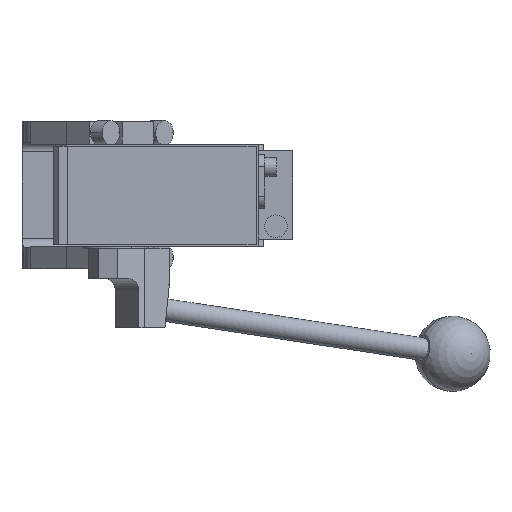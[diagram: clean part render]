
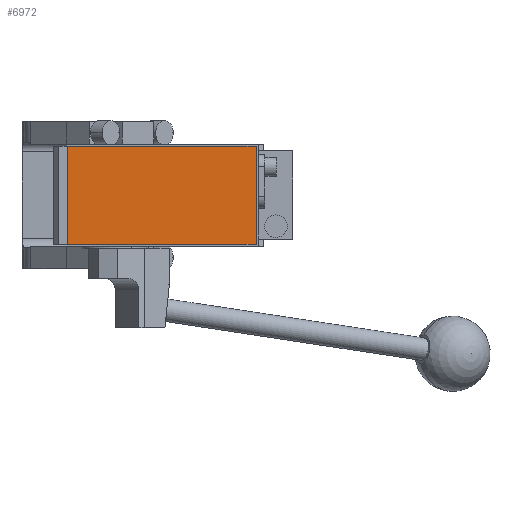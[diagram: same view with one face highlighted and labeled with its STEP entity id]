
A CAD part, front view. The second image highlights one B-rep face of the part: STEP entity #6972.
In plain terms, the highlighted planar face has unit normal (0, -1, 0).
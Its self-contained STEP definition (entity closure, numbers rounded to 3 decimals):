
#382 = EDGE_CURVE ( 'NONE', #5186, #12626, #14631, .T. ) ;
#619 = DIRECTION ( 'NONE',  ( 0., 0., 1. ) ) ;
#940 = DIRECTION ( 'NONE',  ( 0., 0., -1. ) ) ;
#1685 = CARTESIAN_POINT ( 'NONE',  ( -19., -286.5, -26. ) ) ;
#2082 = CARTESIAN_POINT ( 'NONE',  ( 0., -286.5, 0. ) ) ;
#2326 = ORIENTED_EDGE ( 'NONE', *, *, #14115, .T. ) ;
#3036 = EDGE_CURVE ( 'NONE', #4072, #14669, #14647, .T. ) ;
#3726 = DIRECTION ( 'NONE',  ( -1., 0., 0. ) ) ;
#4042 = CARTESIAN_POINT ( 'NONE',  ( -19., -286.5, 26. ) ) ;
#4072 = VERTEX_POINT ( 'NONE', #9351 ) ;
#4213 = CARTESIAN_POINT ( 'NONE',  ( 81., -286.5, 26. ) ) ;
#4270 = DIRECTION ( 'NONE',  ( 0., 0., -1. ) ) ;
#5186 = VERTEX_POINT ( 'NONE', #8604 ) ;
#6094 = VECTOR ( 'NONE', #4270, 1000. ) ;
#6828 = ORIENTED_EDGE ( 'NONE', *, *, #382, .T. ) ;
#6972 = ADVANCED_FACE ( 'NONE', ( #13649 ), #12503, .T. ) ;
#6978 = VECTOR ( 'NONE', #7544, 1000. ) ;
#7544 = DIRECTION ( 'NONE',  ( 1., 0., 0. ) ) ;
#8576 = LINE ( 'NONE', #9875, #6978 ) ;
#8604 = CARTESIAN_POINT ( 'NONE',  ( -19., -286.5, 26. ) ) ;
#8649 = AXIS2_PLACEMENT_3D ( 'NONE', #2082, #11371, #940 ) ;
#9199 = VECTOR ( 'NONE', #3726, 1000. ) ;
#9207 = EDGE_LOOP ( 'NONE', ( #6828, #2326, #9637, #11305 ) ) ;
#9351 = CARTESIAN_POINT ( 'NONE',  ( 81., -286.5, -26. ) ) ;
#9637 = ORIENTED_EDGE ( 'NONE', *, *, #3036, .T. ) ;
#9875 = CARTESIAN_POINT ( 'NONE',  ( -19., -286.5, -26. ) ) ;
#10400 = EDGE_CURVE ( 'NONE', #14669, #5186, #10598, .T. ) ;
#10467 = CARTESIAN_POINT ( 'NONE',  ( 81., -286.5, 26. ) ) ;
#10598 = LINE ( 'NONE', #14166, #9199 ) ;
#11305 = ORIENTED_EDGE ( 'NONE', *, *, #10400, .T. ) ;
#11371 = DIRECTION ( 'NONE',  ( 0., -1., 0. ) ) ;
#12503 = PLANE ( 'NONE',  #8649 ) ;
#12626 = VERTEX_POINT ( 'NONE', #1685 ) ;
#12653 = VECTOR ( 'NONE', #619, 1000. ) ;
#13649 = FACE_OUTER_BOUND ( 'NONE', #9207, .T. ) ;
#14115 = EDGE_CURVE ( 'NONE', #12626, #4072, #8576, .T. ) ;
#14166 = CARTESIAN_POINT ( 'NONE',  ( -19., -286.5, 26. ) ) ;
#14631 = LINE ( 'NONE', #4042, #6094 ) ;
#14647 = LINE ( 'NONE', #4213, #12653 ) ;
#14669 = VERTEX_POINT ( 'NONE', #10467 ) ;
